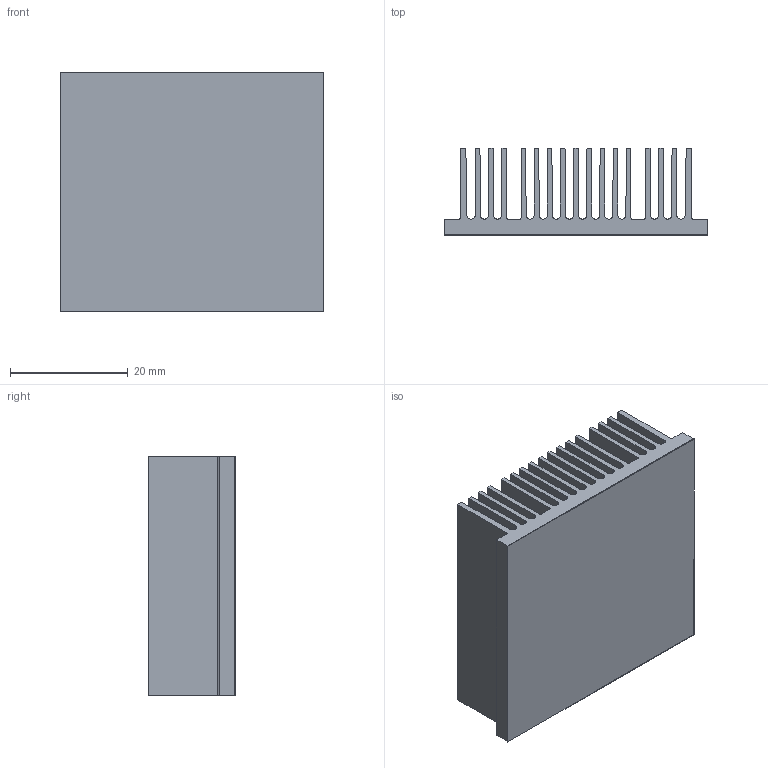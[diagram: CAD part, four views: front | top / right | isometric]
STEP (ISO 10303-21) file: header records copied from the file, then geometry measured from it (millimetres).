
FILE_DESCRIPTION (( 'STEP AP214' ), '1' );
FILE_NAME ('INH45001-15-2.6.STEP', '2023-02-20T22:14:55', ( '' ), ( '' ), 'SwSTEP 2.0', 'SolidWorks 2020', '' );
FILE_SCHEMA (( 'AUTOMOTIVE_DESIGN' ));
Length unit declared in the file: millimetre
Products named in the file (1): INH45001-15-2.6
Bounding box: 44.7 x 14.73 x 40.64 mm (x, y, z)
Volume: 11826.3 mm3; surface area: 24167.9 mm2
Topology: 2 solids, 2 shells, 114 faces, 330 edges, 220 vertices
Faces by surface type: plane 80, cylinder 34
Entity records: 5039 total; most frequent: CARTESIAN_POINT 665, ORIENTED_EDGE 660, DIRECTION 628, EDGE_CURVE 330, LINE 262, VECTOR 262, VERTEX_POINT 220, AXIS2_PLACEMENT_3D 183
